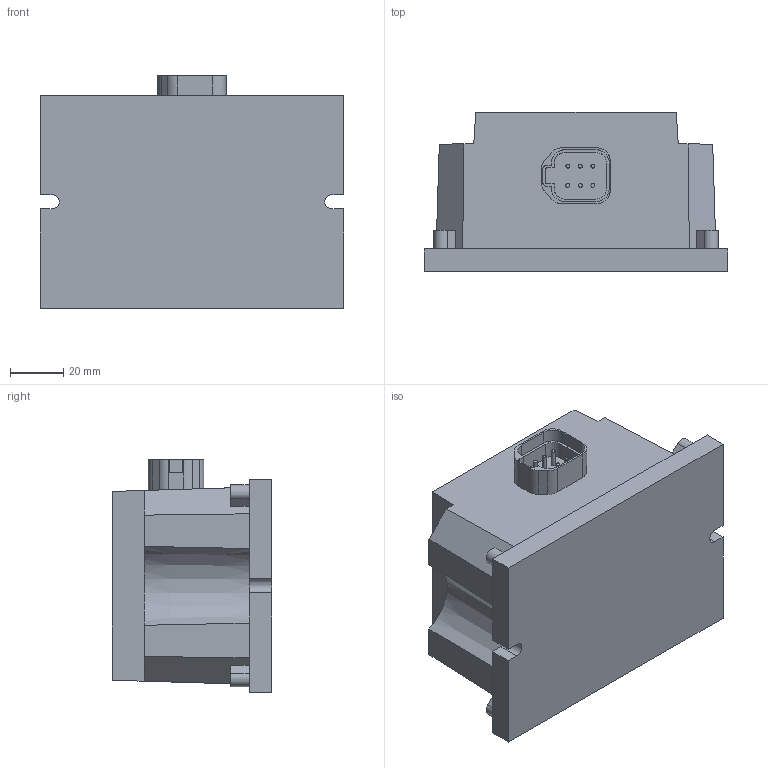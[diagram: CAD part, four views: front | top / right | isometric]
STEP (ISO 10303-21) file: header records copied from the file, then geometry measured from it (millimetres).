
FILE_DESCRIPTION((''),'2;1');
FILE_NAME('164000-38000-3D','2020-08-19T',('ib46307'),('YANMAR CO., LTD.'),'PRO/ENGINEER BY PARAMETRIC TECHNOLOGY CORPORATION, 2017170','PRO/ENGINEER BY PARAMETRIC TECHNOLOGY CORPORATION, 2017170','');
FILE_SCHEMA(('CONFIG_CONTROL_DESIGN'));
Length unit declared in the file: millimetre
Products named in the file (1): 164000-38000-3D
Bounding box: 114.3 x 60.05 x 87.66 mm (x, y, z)
Volume: 422909.2 mm3; surface area: 40755 mm2
Topology: 1 solids, 1 shells, 108 faces, 288 edges, 192 vertices
Faces by surface type: plane 70, cylinder 36, cone 2
Entity records: 3519 total; most frequent: CARTESIAN_POINT 781, ORIENTED_EDGE 576, DIRECTION 528, EDGE_CURVE 288, VECTOR 208, LINE 208, VERTEX_POINT 192, AXIS2_PLACEMENT_3D 160
